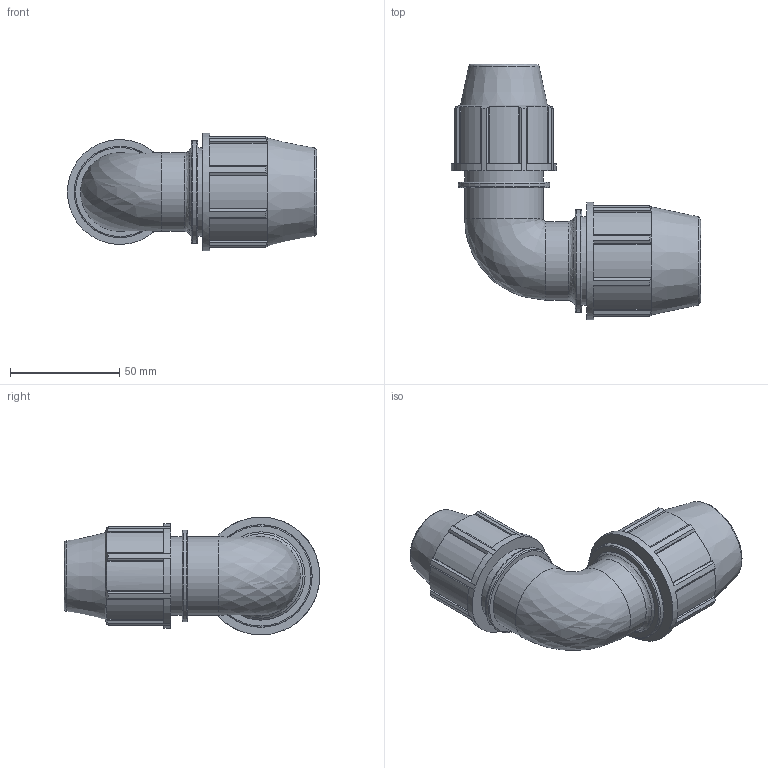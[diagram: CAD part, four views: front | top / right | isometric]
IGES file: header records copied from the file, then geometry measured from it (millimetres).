
Global section: file name: 0751M0007005.ipt; native system: Autodesk Inventor 2019; preprocessor: unknown; author: KIM; date: 20210826.124818; units: inch
Bounding box: 113.92 x 116.84 x 53.85 mm (x, y, z)
Volume: 166686.4 mm3; surface area: 41693.4 mm2
Topology: 1 solids, 1 shells, 151 faces, 426 edges, 286 vertices
Faces by surface type: plane 91, cylinder 39, revolution 16, cone 4, bspline 1
Full cylindrical faces by diameter (mm): 36.005 x3, 40.386 x1, 41.765 x1, 46.848 x1, 53.848 x1
